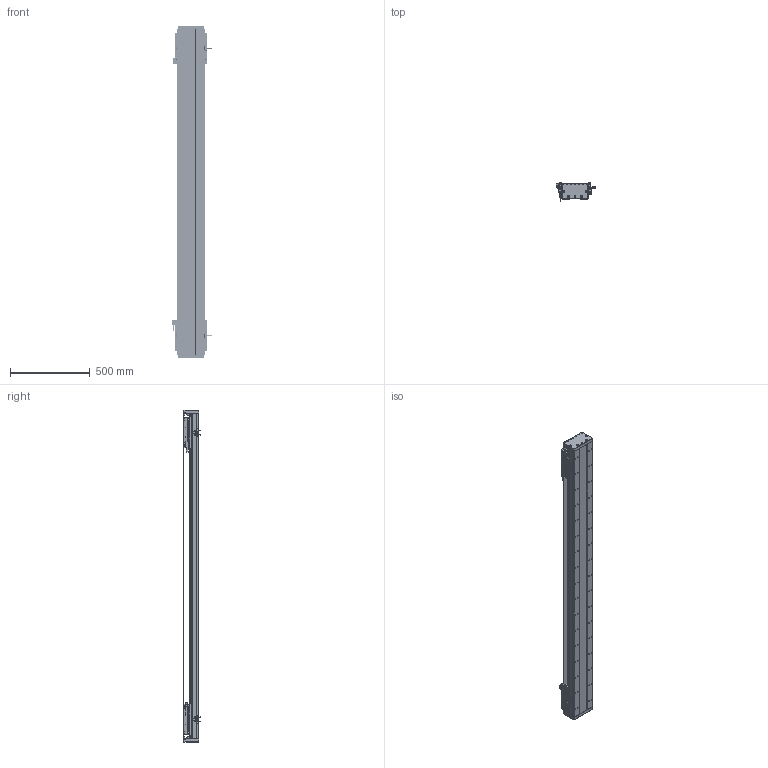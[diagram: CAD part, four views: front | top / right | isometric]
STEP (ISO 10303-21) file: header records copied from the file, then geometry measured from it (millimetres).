
FILE_DESCRIPTION (( 'STEP AP203' ), '1' );
FILE_NAME ('DA-C165-2-C2-T1580-C010-0.2 直线电机.STEP', '2023-05-11T08:23:15', ( '微软用户' ), ( '微软中国' ), 'SwSTEP 2.0', 'SolidWorks 2019', '' );
FILE_SCHEMA (( 'CONFIG_CONTROL_DESIGN' ));
Length unit declared in the file: millimetre
Products named in the file (22): 复件 66338-1000-006-00 光电感应块^DA-C165-C2-T-C010-0.2-N 直线电机; 葩璃 PM-T45^DA-C165-C2-T-C010-0.2-N 眻盄萇儂; IU-CU165-L 菁釱絳寢; 复件 DA165-GD-1860-002-00 钢带盖板^复件 CU165钢带组件_DA-C165-C2-T-C010-0.2-N 直线电机; 复件 CU165钢带组件^DA-C165-C2-T-C010-0.2-N 直线电机; 葩璃 DA95-GT-T-00^IU-CU165-L 菁釱絳寢_T; IU-CU165-L-00 菁釱_L2040; 复件 XD-U-02L 磁栅尺^DA-C165-C2-T-C010-0.2-N 直线电机_T; DA-C165-2-C2-T1580-C010-0.2 眻盄萇儂; 葩璃 PM-Y45^DA-C165-C2-T-C010-0.2-N 眻盄萇儂; 珨极趙賑雄怢啣wf-C2; 复件 DA165-GDYK-00 钢带压块^复件 CU165钢带组件_DA-C165-C2-T-C010-0.2-N 直线电机; 复件 DA95-HXJ-00 缓冲橡胶^DA-C165-C2-T-C010-0.2-N 直线电机; 复件 DA126-GYP-ZJ-00 中间光电感应片^DA-C165-C2-T-C010-0.2-N 直线电机; 复件 六角薄螺母 M3^DA-C165-C2-T-C010-0.2-N 直线电机_GB_FASTENER_NUT_STNAB M3-C; 复件 DKW-HXJ-JY-00 缓冲橡胶^DA-C165-C2-T-C010-0.2-N 直线电机; 复件 CKM02-W075-C1C2-TP-3.0 一体电机-C2^DA-C165-C2-T-C010-0.2-N 直线电机; 复件 DA165-GD-DG-H-00 端盖^复件 CU165钢带组件_DA-C165-C2-T-C010-0.2-N 直线电机; 复件 DMA-010-0.2 读数头^DA-C165-C2-T-C010-0.2-N 直线电机; 复件 DA165-GDLK-00 钢带拉块^复件 CU165钢带组件_DA-C165-C2-T-C010-0.2-N 直线电机; 复件 DA165-GYP-00 光电感应片^DA-C165-C2-T-C010-0.2-N 直线电机; 葩璃 CKM01-W075-TRL^DA-C165-C2-T-C010-0.2-N 眻盄萇儂
Assembly tree (43 placements, depth 3):
  DA-C165-2-C2-T1580-C010-0.2 眻盄萇儂
    IU-CU165-L 菁釱絳寢
      IU-CU165-L-00 菁釱_L2040
      葩璃 DA95-GT-T-00^IU-CU165-L 菁釱絳寢_T  x4
    复件 XD-U-02L 磁栅尺^DA-C165-C2-T-C010-0.2-N 直线电机_T
    葩璃 PM-T45^DA-C165-C2-T-C010-0.2-N 眻盄萇儂  x4
    葩璃 CKM01-W075-TRL^DA-C165-C2-T-C010-0.2-N 眻盄萇儂
    复件 CU165钢带组件^DA-C165-C2-T-C010-0.2-N 直线电机
      复件 DA165-GD-DG-H-00 端盖^复件 CU165钢带组件_DA-C165-C2-T-C010-0.2-N 直线电机  x2
      复件 DA165-GDYK-00 钢带压块^复件 CU165钢带组件_DA-C165-C2-T-C010-0.2-N 直线电机  x2
      复件 DA165-GD-1860-002-00 钢带盖板^复件 CU165钢带组件_DA-C165-C2-T-C010-0.2-N 直线电机
      复件 DA165-GDLK-00 钢带拉块^复件 CU165钢带组件_DA-C165-C2-T-C010-0.2-N 直线电机  x2
    复件 DA95-HXJ-00 缓冲橡胶^DA-C165-C2-T-C010-0.2-N 直线电机  x4
    复件 CKM02-W075-C1C2-TP-3.0 一体电机-C2^DA-C165-C2-T-C010-0.2-N 直线电机  x2
    复件 DMA-010-0.2 读数头^DA-C165-C2-T-C010-0.2-N 直线电机  x2
    复件 DA165-GYP-00 光电感应片^DA-C165-C2-T-C010-0.2-N 直线电机  x2
    复件 66338-1000-006-00 光电感应块^DA-C165-C2-T-C010-0.2-N 直线电机
    葩璃 PM-Y45^DA-C165-C2-T-C010-0.2-N 眻盄萇儂
    复件 DA126-GYP-ZJ-00 中间光电感应片^DA-C165-C2-T-C010-0.2-N 直线电机
    复件 DKW-HXJ-JY-00 缓冲橡胶^DA-C165-C2-T-C010-0.2-N 直线电机  x2
    复件 六角薄螺母 M3^DA-C165-C2-T-C010-0.2-N 直线电机_GB_FASTENER_NUT_STNAB M3-C  x6
    珨极趙賑雄怢啣wf-C2  x2
Bounding box: 247.2 x 111.45 x 2080 mm (x, y, z)
Volume: 13596971.7 mm3; surface area: 3855600.7 mm2
Topology: 119 solids, 119 shells, 5375 faces, 14828 edges, 9314 vertices
Faces by surface type: cylinder 2796, plane 1787, cone 704, torus 80, sphere 8
Entity records: 121910 total; most frequent: CARTESIAN_POINT 31143, ORIENTED_EDGE 18600, DIRECTION 18264, EDGE_CURVE 9300, AXIS2_PLACEMENT_3D 6902, VERTEX_POINT 6051, LINE 4460, VECTOR 4460
